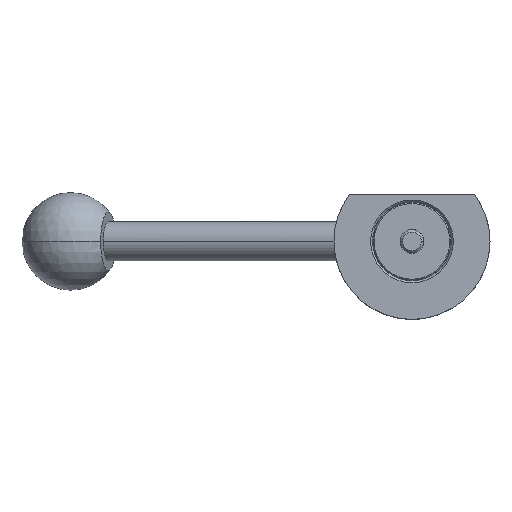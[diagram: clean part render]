
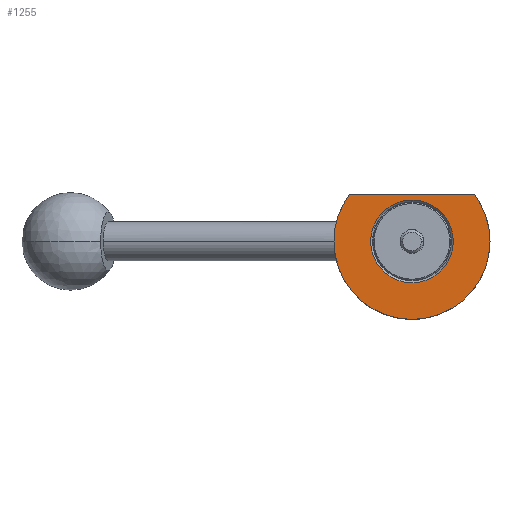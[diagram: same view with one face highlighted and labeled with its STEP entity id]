
A CAD part, front view. The second image highlights one B-rep face of the part: STEP entity #1255.
In plain terms, the highlighted planar face has unit normal (0, -1, 0).
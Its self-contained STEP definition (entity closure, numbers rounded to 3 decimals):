
#30 = AXIS2_PLACEMENT_3D ( 'NONE', #1725, #1527, #2050 ) ;
#31 = VERTEX_POINT ( 'NONE', #1762 ) ;
#86 = EDGE_CURVE ( 'NONE', #1101, #353, #2037, .T. ) ;
#101 = DIRECTION ( 'NONE',  ( -1., 0., 0. ) ) ;
#102 = CARTESIAN_POINT ( 'NONE',  ( 20., -10., 0. ) ) ;
#168 = DIRECTION ( 'NONE',  ( 0., 1., 0. ) ) ;
#188 = DIRECTION ( 'NONE',  ( 0., 1., 0. ) ) ;
#231 = CARTESIAN_POINT ( 'NONE',  ( -16.001, -10., 11.999 ) ) ;
#265 = FACE_BOUND ( 'NONE', #396, .T. ) ;
#268 = CIRCLE ( 'NONE', #1262, 20. ) ;
#353 = VERTEX_POINT ( 'NONE', #102 ) ;
#378 = DIRECTION ( 'NONE',  ( 0., -1., 0. ) ) ;
#396 = EDGE_LOOP ( 'NONE', ( #1829, #1014 ) ) ;
#408 = CARTESIAN_POINT ( 'NONE',  ( -10.6, -10., 11.999 ) ) ;
#477 = EDGE_CURVE ( 'NONE', #530, #1139, #1694, .T. ) ;
#530 = VERTEX_POINT ( 'NONE', #1271 ) ;
#569 = CARTESIAN_POINT ( 'NONE',  ( 0., -10., 0. ) ) ;
#638 = DIRECTION ( 'NONE',  ( -1., 0., 0. ) ) ;
#656 = CARTESIAN_POINT ( 'NONE',  ( 0., -10., 0. ) ) ;
#739 = PLANE ( 'NONE',  #1388 ) ;
#760 = CIRCLE ( 'NONE', #30, 10.6 ) ;
#786 = ORIENTED_EDGE ( 'NONE', *, *, #477, .F. ) ;
#792 = EDGE_CURVE ( 'NONE', #1101, #1139, #1531, .T. ) ;
#817 = DIRECTION ( 'NONE',  ( -1., 0., 0. ) ) ;
#886 = EDGE_CURVE ( 'NONE', #31, #1561, #959, .T. ) ;
#893 = FACE_OUTER_BOUND ( 'NONE', #1204, .T. ) ;
#959 = CIRCLE ( 'NONE', #1785, 10.6 ) ;
#1001 = DIRECTION ( 'NONE',  ( 1., 0., 0. ) ) ;
#1014 = ORIENTED_EDGE ( 'NONE', *, *, #886, .T. ) ;
#1016 = DIRECTION ( 'NONE',  ( 0., 1., 0. ) ) ;
#1029 = DIRECTION ( 'NONE',  ( -1., 0., 0. ) ) ;
#1034 = EDGE_CURVE ( 'NONE', #1561, #31, #760, .T. ) ;
#1101 = VERTEX_POINT ( 'NONE', #2061 ) ;
#1102 = VECTOR ( 'NONE', #1029, 1000. ) ;
#1138 = CARTESIAN_POINT ( 'NONE',  ( 0., -10., 0. ) ) ;
#1139 = VERTEX_POINT ( 'NONE', #231 ) ;
#1194 = ORIENTED_EDGE ( 'NONE', *, *, #792, .T. ) ;
#1204 = EDGE_LOOP ( 'NONE', ( #1381, #1194, #786, #1434 ) ) ;
#1255 = ADVANCED_FACE ( 'NONE', ( #265, #893 ), #739, .T. ) ;
#1262 = AXIS2_PLACEMENT_3D ( 'NONE', #1846, #1016, #101 ) ;
#1271 = CARTESIAN_POINT ( 'NONE',  ( -20., -10., 0. ) ) ;
#1372 = CARTESIAN_POINT ( 'NONE',  ( -10.6, -10., 0. ) ) ;
#1381 = ORIENTED_EDGE ( 'NONE', *, *, #86, .F. ) ;
#1388 = AXIS2_PLACEMENT_3D ( 'NONE', #1372, #378, #1001 ) ;
#1434 = ORIENTED_EDGE ( 'NONE', *, *, #1603, .F. ) ;
#1460 = AXIS2_PLACEMENT_3D ( 'NONE', #656, #168, #638 ) ;
#1527 = DIRECTION ( 'NONE',  ( 0., 1., 0. ) ) ;
#1531 = LINE ( 'NONE', #408, #1102 ) ;
#1561 = VERTEX_POINT ( 'NONE', #1837 ) ;
#1603 = EDGE_CURVE ( 'NONE', #353, #530, #268, .T. ) ;
#1694 = CIRCLE ( 'NONE', #1870, 20. ) ;
#1725 = CARTESIAN_POINT ( 'NONE',  ( 0., -10., 0. ) ) ;
#1762 = CARTESIAN_POINT ( 'NONE',  ( -10.6, -10., 0. ) ) ;
#1785 = AXIS2_PLACEMENT_3D ( 'NONE', #569, #1798, #1786 ) ;
#1786 = DIRECTION ( 'NONE',  ( -1., 0., 0. ) ) ;
#1798 = DIRECTION ( 'NONE',  ( 0., 1., 0. ) ) ;
#1829 = ORIENTED_EDGE ( 'NONE', *, *, #1034, .T. ) ;
#1837 = CARTESIAN_POINT ( 'NONE',  ( 10.6, -10., 0. ) ) ;
#1846 = CARTESIAN_POINT ( 'NONE',  ( 0., -10., 0. ) ) ;
#1870 = AXIS2_PLACEMENT_3D ( 'NONE', #1138, #188, #817 ) ;
#2037 = CIRCLE ( 'NONE', #1460, 20. ) ;
#2050 = DIRECTION ( 'NONE',  ( -1., 0., 0. ) ) ;
#2061 = CARTESIAN_POINT ( 'NONE',  ( 16.001, -10., 11.999 ) ) ;
